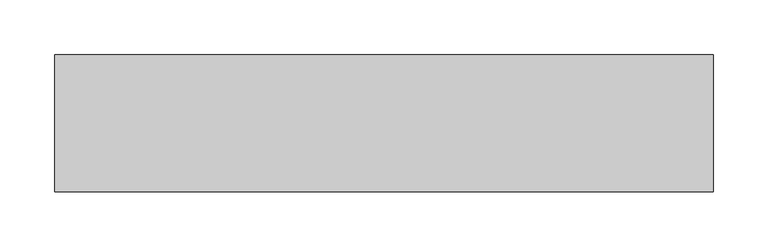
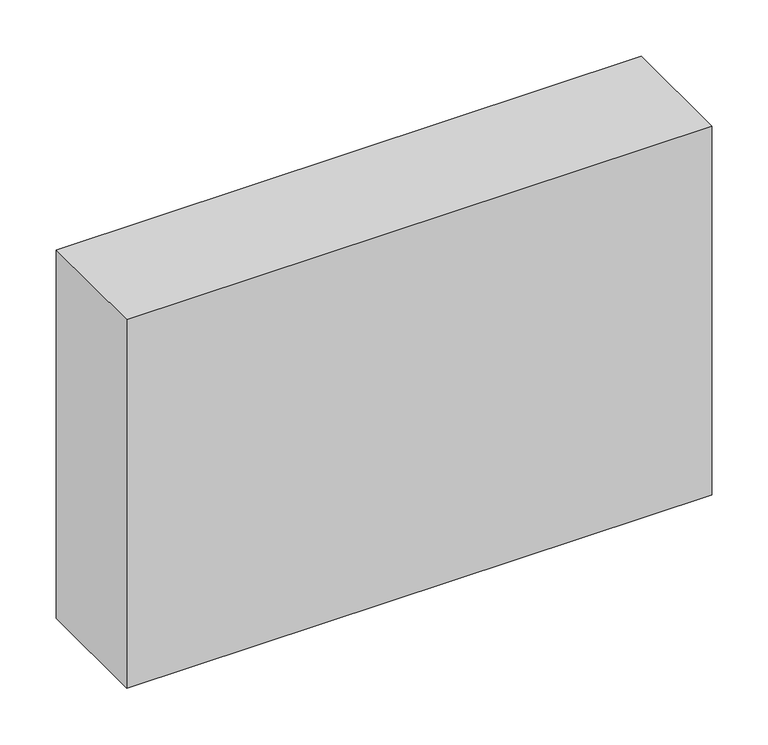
"""IFC4 building model written with IfcOpenShell, lengths in millimetres: proxy geometry, Módulo de Vedação de Concreto Celular - Celucon : MVCC 12,5x40x60cm (L x A x C)."""

from ifc_helpers import new_model, si_unit, origin, origin_with_axes, place, context, project, spatial, polyline, outline, extrude, source, transform, mapped, element, save


def generic_models_9ac8ba65(model_context):
    return source(origin(), model_context, "Body", "SweptSolid", [
        extrude(outline(polyline([(300.0, 62.5), (300.0, -62.5), (-300.0, -62.5), (-300.0, 62.5), (300.0, 62.5)])), origin_with_axes(), (0.0, 0.0, 1.0), 400.0),
    ])


if __name__ == "__main__":
    model = new_model("IFC4")
    model_context = context("Model", 3, world=origin())
    ifc_project = project(units=[si_unit("LENGTHUNIT", "METRE", prefix="MILLI")], contexts=[model_context])
    site = spatial("IfcSite", under=ifc_project)
    building = spatial("IfcBuilding", under=site)
    placement = place(None, origin())
    generic_models_shape = generic_models_9ac8ba65(model_context)
    element("IfcBuildingElementProxy", 1, Name="Módulo de Vedação de Concreto Celular - Celucon : MVCC 12,5x40x60cm (L x A x C)", ObjectType="Módulo de Vedação de Concreto Celular - Celucon : MVCC 12,5x40x60cm (L x A x C)", at=placement, inside=building, context=model_context, shape_type="MappedRepresentation", body=[
        mapped(generic_models_shape, transform((0.0, 0.0, 0.0), x_axis=(1.0, 0.0, 0.0), y_axis=(0.0, 1.0, 0.0), z_axis=(0.0, 0.0, 1.0))),
    ])
    save(model, "model.ifc")
